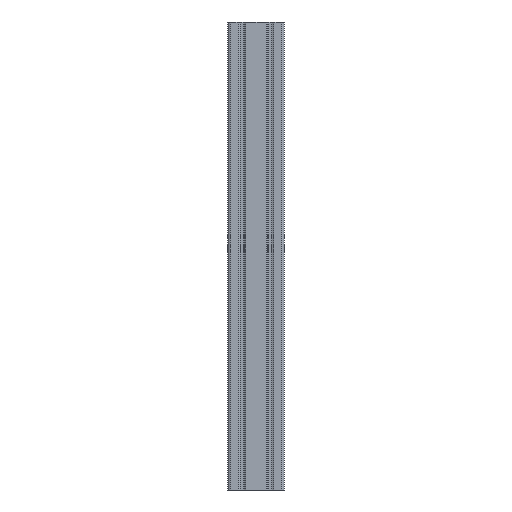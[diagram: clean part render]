
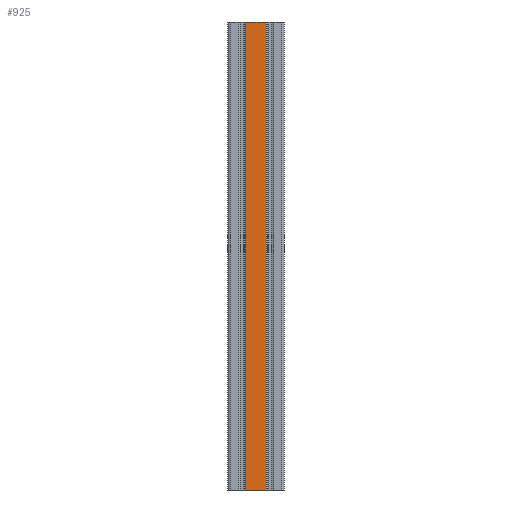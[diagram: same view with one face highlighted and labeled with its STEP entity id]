
A CAD part, front view. The second image highlights one B-rep face of the part: STEP entity #925.
In plain terms, the highlighted planar face has unit normal (0, -1, 0).
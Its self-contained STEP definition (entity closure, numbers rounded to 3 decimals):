
#87 = VERTEX_POINT ( 'NONE', #197 ) ;
#90 = VERTEX_POINT ( 'NONE', #1911 ) ;
#165 = EDGE_CURVE ( 'NONE', #87, #90, #1899, .T. ) ;
#197 = CARTESIAN_POINT ( 'NONE',  ( -16072.855, -13334.753, 500. ) ) ;
#515 = EDGE_CURVE ( 'NONE', #688, #681, #2331, .T. ) ;
#681 = VERTEX_POINT ( 'NONE', #2719 ) ;
#688 = VERTEX_POINT ( 'NONE', #2724 ) ;
#915 = EDGE_CURVE ( 'NONE', #87, #688, #3201, .T. ) ;
#923 = EDGE_CURVE ( 'NONE', #90, #681, #3080, .T. ) ;
#924 = ORIENTED_EDGE ( 'NONE', *, *, #923, .F. ) ;
#925 = ADVANCED_FACE ( 'NONE', ( #3234 ), #3240, .F. ) ;
#926 = ORIENTED_EDGE ( 'NONE', *, *, #515, .T. ) ;
#928 = ORIENTED_EDGE ( 'NONE', *, *, #915, .T. ) ;
#929 = ORIENTED_EDGE ( 'NONE', *, *, #165, .F. ) ;
#998 = EDGE_LOOP ( 'NONE', ( #926, #924, #929, #928 ) ) ;
#1889 = DIRECTION ( 'NONE',  ( 1., 0., 0. ) ) ;
#1890 = VECTOR ( 'NONE', #1889, 1000. ) ;
#1891 = CARTESIAN_POINT ( 'NONE',  ( -16072.855, -13334.753, 500. ) ) ;
#1899 = LINE ( 'NONE', #1891, #1890 ) ;
#1911 = CARTESIAN_POINT ( 'NONE',  ( -16051.205, -13334.753, 500. ) ) ;
#2329 = DIRECTION ( 'NONE',  ( 1., 0., 0. ) ) ;
#2330 = VECTOR ( 'NONE', #2329, 1000. ) ;
#2331 = LINE ( 'NONE', #2370, #2330 ) ;
#2370 = CARTESIAN_POINT ( 'NONE',  ( -16072.855, -13334.753, 0. ) ) ;
#2719 = CARTESIAN_POINT ( 'NONE',  ( -16051.205, -13334.753, 0. ) ) ;
#2724 = CARTESIAN_POINT ( 'NONE',  ( -16072.855, -13334.753, 0. ) ) ;
#3079 = VECTOR ( 'NONE', #3170, 1000. ) ;
#3080 = LINE ( 'NONE', #3119, #3156 ) ;
#3118 = CARTESIAN_POINT ( 'NONE',  ( -16072.855, -13334.753, 500. ) ) ;
#3119 = CARTESIAN_POINT ( 'NONE',  ( -16051.205, -13334.753, 500. ) ) ;
#3120 = DIRECTION ( 'NONE',  ( 0., 1., 0. ) ) ;
#3156 = VECTOR ( 'NONE', #3232, 1000. ) ;
#3170 = DIRECTION ( 'NONE',  ( 0., 0., -1. ) ) ;
#3171 = CARTESIAN_POINT ( 'NONE',  ( -16072.855, -13334.753, 500. ) ) ;
#3201 = LINE ( 'NONE', #3171, #3079 ) ;
#3231 = AXIS2_PLACEMENT_3D ( 'NONE', #3118, #3120, #3260 ) ;
#3232 = DIRECTION ( 'NONE',  ( 0., 0., -1. ) ) ;
#3234 = FACE_OUTER_BOUND ( 'NONE', #998, .T. ) ;
#3240 = PLANE ( 'NONE',  #3231 ) ;
#3260 = DIRECTION ( 'NONE',  ( -1., 0., 0. ) ) ;
